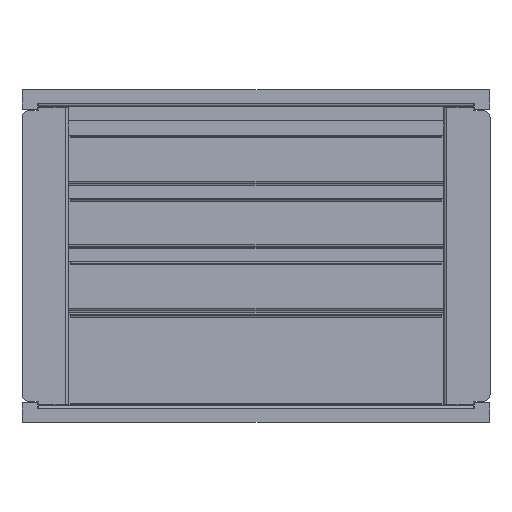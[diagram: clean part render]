
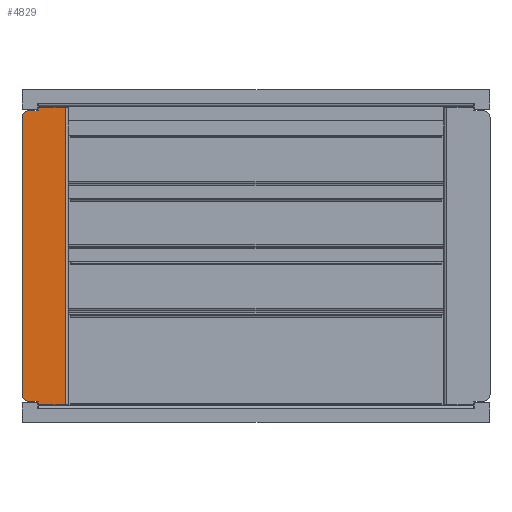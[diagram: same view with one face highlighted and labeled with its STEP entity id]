
A CAD part, front view. The second image highlights one B-rep face of the part: STEP entity #4829.
In plain terms, the highlighted planar face has unit normal (0, -1, 0).
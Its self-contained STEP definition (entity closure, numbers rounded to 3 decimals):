
#39 = DIRECTION ( 'NONE',  ( 1., 0., 0. ) ) ;
#67 = DIRECTION ( 'NONE',  ( 0., -1., 0. ) ) ;
#92 = CARTESIAN_POINT ( 'NONE',  ( -5.707, -11.928, -222.588 ) ) ;
#187 = VERTEX_POINT ( 'NONE', #7769 ) ;
#238 = EDGE_CURVE ( 'NONE', #3990, #6143, #3795, .T. ) ;
#522 = CIRCLE ( 'NONE', #2081, 2.5 ) ;
#552 = DIRECTION ( 'NONE',  ( 1., 0., 0. ) ) ;
#706 = DIRECTION ( 'NONE',  ( -1., 0., 0. ) ) ;
#724 = VERTEX_POINT ( 'NONE', #4356 ) ;
#750 = EDGE_LOOP ( 'NONE', ( #935, #9116, #5022, #7915, #4828, #8363, #4966, #8606, #3117, #7773, #2608, #6691 ) ) ;
#763 = AXIS2_PLACEMENT_3D ( 'NONE', #5445, #5405, #5329 ) ;
#935 = ORIENTED_EDGE ( 'NONE', *, *, #8090, .F. ) ;
#980 = VERTEX_POINT ( 'NONE', #8092 ) ;
#1063 = VECTOR ( 'NONE', #2228, 1000. ) ;
#1073 = LINE ( 'NONE', #2306, #1063 ) ;
#1136 = CARTESIAN_POINT ( 'NONE',  ( 32.607, -11.928, 225.588 ) ) ;
#1245 = VERTEX_POINT ( 'NONE', #1854 ) ;
#1442 = DIRECTION ( 'NONE',  ( 0., 0., 1. ) ) ;
#1557 = CARTESIAN_POINT ( 'NONE',  ( -8.207, -11.928, 225.588 ) ) ;
#1590 = LINE ( 'NONE', #5830, #1675 ) ;
#1600 = EDGE_CURVE ( 'NONE', #2173, #1245, #1782, .T. ) ;
#1675 = VECTOR ( 'NONE', #5771, 1000. ) ;
#1782 = LINE ( 'NONE', #1136, #1801 ) ;
#1801 = VECTOR ( 'NONE', #8956, 1000. ) ;
#1854 = CARTESIAN_POINT ( 'NONE',  ( 32.607, -11.928, -225.088 ) ) ;
#2081 = AXIS2_PLACEMENT_3D ( 'NONE', #92, #67, #39 ) ;
#2173 = VERTEX_POINT ( 'NONE', #2222 ) ;
#2222 = CARTESIAN_POINT ( 'NONE',  ( 32.607, -11.928, 225.088 ) ) ;
#2228 = DIRECTION ( 'NONE',  ( 1., 0., 0. ) ) ;
#2306 = CARTESIAN_POINT ( 'NONE',  ( 53.965, -11.928, 225.088 ) ) ;
#2424 = CARTESIAN_POINT ( 'NONE',  ( -22.607, -11.928, 209.593 ) ) ;
#2608 = ORIENTED_EDGE ( 'NONE', *, *, #9010, .T. ) ;
#3117 = ORIENTED_EDGE ( 'NONE', *, *, #238, .T. ) ;
#3128 = VERTEX_POINT ( 'NONE', #5353 ) ;
#3407 = VERTEX_POINT ( 'NONE', #4590 ) ;
#3436 = DIRECTION ( 'NONE',  ( 1., 0., 0. ) ) ;
#3561 = EDGE_CURVE ( 'NONE', #3990, #3407, #8220, .T. ) ;
#3605 = AXIS2_PLACEMENT_3D ( 'NONE', #5056, #5049, #5043 ) ;
#3795 = CIRCLE ( 'NONE', #7387, 10. ) ;
#3990 = VERTEX_POINT ( 'NONE', #3994 ) ;
#3994 = CARTESIAN_POINT ( 'NONE',  ( -22.607, -11.928, 219.593 ) ) ;
#4356 = CARTESIAN_POINT ( 'NONE',  ( -8.207, -11.928, -219.593 ) ) ;
#4493 = EDGE_CURVE ( 'NONE', #1245, #4909, #6440, .T. ) ;
#4590 = CARTESIAN_POINT ( 'NONE',  ( -8.207, -11.928, 219.593 ) ) ;
#4669 = AXIS2_PLACEMENT_3D ( 'NONE', #8663, #8499, #8371 ) ;
#4730 = EDGE_CURVE ( 'NONE', #3407, #8853, #6021, .T. ) ;
#4828 = ORIENTED_EDGE ( 'NONE', *, *, #7042, .F. ) ;
#4829 = ADVANCED_FACE ( 'NONE', ( #5734 ), #8444, .T. ) ;
#4909 = VERTEX_POINT ( 'NONE', #7572 ) ;
#4966 = ORIENTED_EDGE ( 'NONE', *, *, #4730, .F. ) ;
#5005 = EDGE_CURVE ( 'NONE', #724, #980, #5364, .T. ) ;
#5022 = ORIENTED_EDGE ( 'NONE', *, *, #4493, .F. ) ;
#5038 = EDGE_CURVE ( 'NONE', #6566, #8853, #5325, .T. ) ;
#5043 = DIRECTION ( 'NONE',  ( 1., 0., 0. ) ) ;
#5049 = DIRECTION ( 'NONE',  ( 0., -1., 0. ) ) ;
#5056 = CARTESIAN_POINT ( 'NONE',  ( -5.707, -11.928, 222.588 ) ) ;
#5214 = CARTESIAN_POINT ( 'NONE',  ( 53.965, -11.928, -225.088 ) ) ;
#5325 = CIRCLE ( 'NONE', #3605, 2.5 ) ;
#5329 = DIRECTION ( 'NONE',  ( 1., 0., 0. ) ) ;
#5353 = CARTESIAN_POINT ( 'NONE',  ( -32.607, -11.928, -209.593 ) ) ;
#5364 = LINE ( 'NONE', #5718, #5463 ) ;
#5405 = DIRECTION ( 'NONE',  ( 0., -1., 0. ) ) ;
#5445 = CARTESIAN_POINT ( 'NONE',  ( -22.607, -11.928, -209.593 ) ) ;
#5463 = VECTOR ( 'NONE', #5707, 1000. ) ;
#5707 = DIRECTION ( 'NONE',  ( -1., 0., 0. ) ) ;
#5718 = CARTESIAN_POINT ( 'NONE',  ( -8.207, -11.928, -219.593 ) ) ;
#5734 = FACE_OUTER_BOUND ( 'NONE', #750, .T. ) ;
#5771 = DIRECTION ( 'NONE',  ( 0., 0., 1. ) ) ;
#5782 = CIRCLE ( 'NONE', #763, 10. ) ;
#5830 = CARTESIAN_POINT ( 'NONE',  ( -32.607, -11.928, 225.588 ) ) ;
#5910 = CARTESIAN_POINT ( 'NONE',  ( -5.707, -11.928, 225.088 ) ) ;
#6004 = VECTOR ( 'NONE', #1442, 1000. ) ;
#6021 = LINE ( 'NONE', #1557, #6004 ) ;
#6129 = DIRECTION ( 'NONE',  ( 0., -1., 0. ) ) ;
#6143 = VERTEX_POINT ( 'NONE', #8272 ) ;
#6237 = DIRECTION ( 'NONE',  ( 0., 0., 1. ) ) ;
#6248 = CARTESIAN_POINT ( 'NONE',  ( -8.207, -11.928, -220.093 ) ) ;
#6440 = LINE ( 'NONE', #5214, #6449 ) ;
#6449 = VECTOR ( 'NONE', #706, 1000. ) ;
#6566 = VERTEX_POINT ( 'NONE', #5910 ) ;
#6649 = EDGE_CURVE ( 'NONE', #3128, #6143, #1590, .T. ) ;
#6691 = ORIENTED_EDGE ( 'NONE', *, *, #5005, .F. ) ;
#7042 = EDGE_CURVE ( 'NONE', #6566, #2173, #1073, .T. ) ;
#7358 = EDGE_CURVE ( 'NONE', #187, #4909, #522, .T. ) ;
#7387 = AXIS2_PLACEMENT_3D ( 'NONE', #2424, #6129, #552 ) ;
#7572 = CARTESIAN_POINT ( 'NONE',  ( -5.707, -11.928, -225.088 ) ) ;
#7723 = CARTESIAN_POINT ( 'NONE',  ( -8.207, -11.928, 222.588 ) ) ;
#7769 = CARTESIAN_POINT ( 'NONE',  ( -8.207, -11.928, -222.588 ) ) ;
#7773 = ORIENTED_EDGE ( 'NONE', *, *, #6649, .F. ) ;
#7915 = ORIENTED_EDGE ( 'NONE', *, *, #1600, .F. ) ;
#8090 = EDGE_CURVE ( 'NONE', #187, #724, #8229, .T. ) ;
#8092 = CARTESIAN_POINT ( 'NONE',  ( -22.607, -11.928, -219.593 ) ) ;
#8171 = VECTOR ( 'NONE', #3436, 1000. ) ;
#8220 = LINE ( 'NONE', #8240, #8171 ) ;
#8221 = VECTOR ( 'NONE', #6237, 1000. ) ;
#8229 = LINE ( 'NONE', #6248, #8221 ) ;
#8240 = CARTESIAN_POINT ( 'NONE',  ( -8.207, -11.928, 219.593 ) ) ;
#8272 = CARTESIAN_POINT ( 'NONE',  ( -32.607, -11.928, 209.593 ) ) ;
#8363 = ORIENTED_EDGE ( 'NONE', *, *, #5038, .T. ) ;
#8371 = DIRECTION ( 'NONE',  ( 0., 0., -1. ) ) ;
#8444 = PLANE ( 'NONE',  #4669 ) ;
#8499 = DIRECTION ( 'NONE',  ( 0., -1., 0. ) ) ;
#8606 = ORIENTED_EDGE ( 'NONE', *, *, #3561, .F. ) ;
#8663 = CARTESIAN_POINT ( 'NONE',  ( -32.607, -11.928, -225.588 ) ) ;
#8853 = VERTEX_POINT ( 'NONE', #7723 ) ;
#8956 = DIRECTION ( 'NONE',  ( 0., 0., -1. ) ) ;
#9010 = EDGE_CURVE ( 'NONE', #3128, #980, #5782, .T. ) ;
#9116 = ORIENTED_EDGE ( 'NONE', *, *, #7358, .T. ) ;
